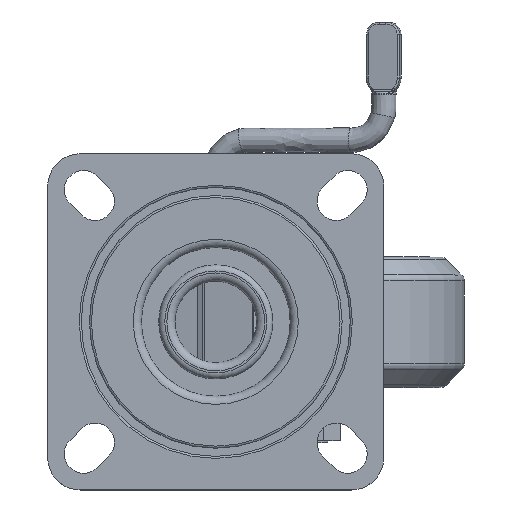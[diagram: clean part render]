
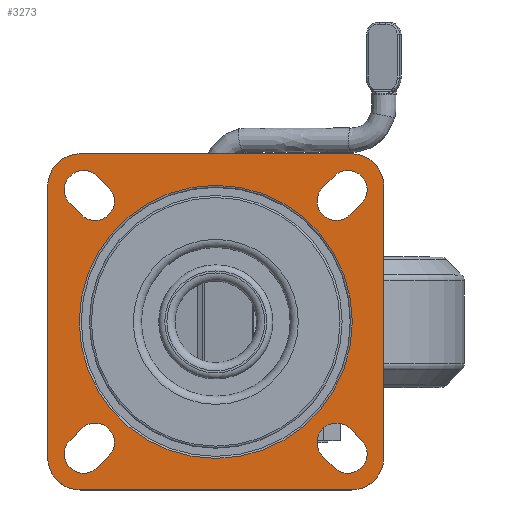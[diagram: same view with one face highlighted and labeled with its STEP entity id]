
A CAD part, top view. The second image highlights one B-rep face of the part: STEP entity #3273.
In plain terms, the highlighted planar face has unit normal (0, 0, 1).
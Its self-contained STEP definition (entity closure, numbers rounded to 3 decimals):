
#1211=PLANE('',#10369);
#1567=CIRCLE('',#10356,4.75);
#1568=CIRCLE('',#10357,4.75);
#1569=CIRCLE('',#10358,4.75);
#1570=CIRCLE('',#10359,4.75);
#1571=CIRCLE('',#10360,33.5);
#1572=CIRCLE('',#10361,8.);
#1573=CIRCLE('',#10362,8.);
#1574=CIRCLE('',#10363,8.);
#1575=CIRCLE('',#10364,8.);
#1576=CIRCLE('',#10365,4.75);
#1577=CIRCLE('',#10366,4.75);
#1578=CIRCLE('',#10367,4.75);
#1579=CIRCLE('',#10368,4.75);
#1949=LINE('',#14139,#2616);
#1950=LINE('',#14143,#2617);
#1951=LINE('',#14144,#2618);
#1952=LINE('',#14149,#2619);
#1953=LINE('',#14154,#2620);
#1954=LINE('',#14159,#2621);
#1955=LINE('',#14163,#2622);
#1956=LINE('',#14167,#2623);
#1957=LINE('',#14173,#2624);
#1958=LINE('',#14177,#2625);
#1959=LINE('',#14178,#2626);
#1960=LINE('',#14183,#2627);
#2616=VECTOR('',#11353,1.);
#2617=VECTOR('',#11356,1.);
#2618=VECTOR('',#11357,1.);
#2619=VECTOR('',#11360,1.);
#2620=VECTOR('',#11365,1.);
#2621=VECTOR('',#11368,1.);
#2622=VECTOR('',#11371,1.);
#2623=VECTOR('',#11374,1.);
#2624=VECTOR('',#11379,1.);
#2625=VECTOR('',#11382,1.);
#2626=VECTOR('',#11383,1.);
#2627=VECTOR('',#11386,1.);
#3273=ADVANCED_FACE('',(#3941,#3942,#3943,#3944,#3945,#3946),#1211,.F.);
#3941=FACE_BOUND('',#4174,.T.);
#3942=FACE_BOUND('',#4175,.T.);
#3943=FACE_BOUND('',#4176,.T.);
#3944=FACE_BOUND('',#4177,.T.);
#3945=FACE_BOUND('',#4178,.T.);
#3946=FACE_BOUND('',#4179,.T.);
#4174=EDGE_LOOP('',(#4940,#4941,#4942,#4943));
#4175=EDGE_LOOP('',(#4944,#4945,#4946,#4947));
#4176=EDGE_LOOP('',(#4948));
#4177=EDGE_LOOP('',(#4949,#4950,#4951,#4952,#4953,#4954,#4955,#4956));
#4178=EDGE_LOOP('',(#4957,#4958,#4959,#4960));
#4179=EDGE_LOOP('',(#4961,#4962,#4963,#4964));
#4940=ORIENTED_EDGE('',*,*,#8876,.T.);
#4941=ORIENTED_EDGE('',*,*,#8877,.T.);
#4942=ORIENTED_EDGE('',*,*,#8878,.T.);
#4943=ORIENTED_EDGE('',*,*,#8879,.T.);
#4944=ORIENTED_EDGE('',*,*,#8880,.F.);
#4945=ORIENTED_EDGE('',*,*,#8881,.F.);
#4946=ORIENTED_EDGE('',*,*,#8882,.F.);
#4947=ORIENTED_EDGE('',*,*,#8883,.F.);
#4948=ORIENTED_EDGE('',*,*,#8884,.F.);
#4949=ORIENTED_EDGE('',*,*,#8885,.T.);
#4950=ORIENTED_EDGE('',*,*,#8886,.T.);
#4951=ORIENTED_EDGE('',*,*,#8887,.T.);
#4952=ORIENTED_EDGE('',*,*,#8888,.T.);
#4953=ORIENTED_EDGE('',*,*,#8889,.T.);
#4954=ORIENTED_EDGE('',*,*,#8890,.T.);
#4955=ORIENTED_EDGE('',*,*,#8891,.F.);
#4956=ORIENTED_EDGE('',*,*,#8892,.T.);
#4957=ORIENTED_EDGE('',*,*,#8893,.T.);
#4958=ORIENTED_EDGE('',*,*,#8894,.T.);
#4959=ORIENTED_EDGE('',*,*,#8895,.T.);
#4960=ORIENTED_EDGE('',*,*,#8896,.T.);
#4961=ORIENTED_EDGE('',*,*,#8897,.F.);
#4962=ORIENTED_EDGE('',*,*,#8898,.F.);
#4963=ORIENTED_EDGE('',*,*,#8899,.F.);
#4964=ORIENTED_EDGE('',*,*,#8900,.F.);
#7894=VERTEX_POINT('',#14137);
#7895=VERTEX_POINT('',#14138);
#7896=VERTEX_POINT('',#14140);
#7897=VERTEX_POINT('',#14142);
#7898=VERTEX_POINT('',#14145);
#7899=VERTEX_POINT('',#14146);
#7900=VERTEX_POINT('',#14148);
#7901=VERTEX_POINT('',#14150);
#7902=VERTEX_POINT('',#14153);
#7903=VERTEX_POINT('',#14155);
#7904=VERTEX_POINT('',#14156);
#7905=VERTEX_POINT('',#14158);
#7906=VERTEX_POINT('',#14160);
#7907=VERTEX_POINT('',#14162);
#7908=VERTEX_POINT('',#14164);
#7909=VERTEX_POINT('',#14166);
#7910=VERTEX_POINT('',#14168);
#7911=VERTEX_POINT('',#14171);
#7912=VERTEX_POINT('',#14172);
#7913=VERTEX_POINT('',#14174);
#7914=VERTEX_POINT('',#14176);
#7915=VERTEX_POINT('',#14179);
#7916=VERTEX_POINT('',#14180);
#7917=VERTEX_POINT('',#14182);
#7918=VERTEX_POINT('',#14184);
#8876=EDGE_CURVE('',#7894,#7895,#1567,.T.);
#8877=EDGE_CURVE('',#7895,#7896,#1949,.T.);
#8878=EDGE_CURVE('',#7896,#7897,#1568,.T.);
#8879=EDGE_CURVE('',#7897,#7894,#1950,.T.);
#8880=EDGE_CURVE('',#7898,#7899,#1951,.T.);
#8881=EDGE_CURVE('',#7900,#7898,#1569,.T.);
#8882=EDGE_CURVE('',#7901,#7900,#1952,.T.);
#8883=EDGE_CURVE('',#7899,#7901,#1570,.T.);
#8884=EDGE_CURVE('',#7902,#7902,#1571,.T.);
#8885=EDGE_CURVE('',#7903,#7904,#1953,.T.);
#8886=EDGE_CURVE('',#7904,#7905,#1572,.T.);
#8887=EDGE_CURVE('',#7905,#7906,#1954,.T.);
#8888=EDGE_CURVE('',#7906,#7907,#1573,.T.);
#8889=EDGE_CURVE('',#7907,#7908,#1955,.T.);
#8890=EDGE_CURVE('',#7908,#7909,#1574,.T.);
#8891=EDGE_CURVE('',#7910,#7909,#1956,.T.);
#8892=EDGE_CURVE('',#7910,#7903,#1575,.T.);
#8893=EDGE_CURVE('',#7911,#7912,#1576,.T.);
#8894=EDGE_CURVE('',#7912,#7913,#1957,.T.);
#8895=EDGE_CURVE('',#7913,#7914,#1577,.T.);
#8896=EDGE_CURVE('',#7914,#7911,#1958,.T.);
#8897=EDGE_CURVE('',#7915,#7916,#1959,.T.);
#8898=EDGE_CURVE('',#7917,#7915,#1578,.T.);
#8899=EDGE_CURVE('',#7918,#7917,#1960,.T.);
#8900=EDGE_CURVE('',#7916,#7918,#1579,.T.);
#10356=AXIS2_PLACEMENT_3D('',#14136,#11351,#11352);
#10357=AXIS2_PLACEMENT_3D('',#14141,#11354,#11355);
#10358=AXIS2_PLACEMENT_3D('',#14147,#11358,#11359);
#10359=AXIS2_PLACEMENT_3D('',#14151,#11361,#11362);
#10360=AXIS2_PLACEMENT_3D('',#14152,#11363,#11364);
#10361=AXIS2_PLACEMENT_3D('',#14157,#11366,#11367);
#10362=AXIS2_PLACEMENT_3D('',#14161,#11369,#11370);
#10363=AXIS2_PLACEMENT_3D('',#14165,#11372,#11373);
#10364=AXIS2_PLACEMENT_3D('',#14169,#11375,#11376);
#10365=AXIS2_PLACEMENT_3D('',#14170,#11377,#11378);
#10366=AXIS2_PLACEMENT_3D('',#14175,#11380,#11381);
#10367=AXIS2_PLACEMENT_3D('',#14181,#11384,#11385);
#10368=AXIS2_PLACEMENT_3D('',#14185,#11387,#11388);
#10369=AXIS2_PLACEMENT_3D('',#14186,#11389,#11390);
#11351=DIRECTION('',(0.,0.,-1.));
#11352=DIRECTION('',(-1.,0.,0.));
#11353=DIRECTION('',(-0.707,0.707,0.));
#11354=DIRECTION('',(0.,0.,-1.));
#11355=DIRECTION('',(-1.,0.,0.));
#11356=DIRECTION('',(0.707,-0.707,0.));
#11357=DIRECTION('',(-0.707,-0.707,0.));
#11358=DIRECTION('',(0.,0.,1.));
#11359=DIRECTION('',(-1.,0.,0.));
#11360=DIRECTION('',(0.707,0.707,0.));
#11361=DIRECTION('',(0.,0.,1.));
#11362=DIRECTION('',(-1.,0.,0.));
#11363=DIRECTION('',(0.,0.,1.));
#11364=DIRECTION('',(-1.,0.,0.));
#11365=DIRECTION('',(0.,1.,0.));
#11366=DIRECTION('',(0.,0.,1.));
#11367=DIRECTION('',(1.,0.,0.));
#11368=DIRECTION('',(-1.,0.,0.));
#11369=DIRECTION('',(0.,0.,1.));
#11370=DIRECTION('',(1.,0.,0.));
#11371=DIRECTION('',(0.,-1.,0.));
#11372=DIRECTION('',(0.,0.,1.));
#11373=DIRECTION('',(1.,0.,0.));
#11374=DIRECTION('',(-1.,0.,0.));
#11375=DIRECTION('',(0.,0.,1.));
#11376=DIRECTION('',(1.,0.,0.));
#11377=DIRECTION('',(0.,0.,-1.));
#11378=DIRECTION('',(1.,0.,0.));
#11379=DIRECTION('',(0.707,0.707,0.));
#11380=DIRECTION('',(0.,0.,-1.));
#11381=DIRECTION('',(1.,0.,0.));
#11382=DIRECTION('',(-0.707,-0.707,0.));
#11383=DIRECTION('',(0.707,-0.707,0.));
#11384=DIRECTION('',(0.,0.,1.));
#11385=DIRECTION('',(1.,0.,0.));
#11386=DIRECTION('',(-0.707,0.707,0.));
#11387=DIRECTION('',(0.,0.,1.));
#11388=DIRECTION('',(1.,0.,0.));
#11389=DIRECTION('',(0.,0.,-1.));
#11390=DIRECTION('',(-1.,0.,0.));
#14136=CARTESIAN_POINT('',(32.4,-32.4,0.));
#14137=CARTESIAN_POINT('',(35.759,-29.041,0.));
#14138=CARTESIAN_POINT('',(29.041,-35.759,0.));
#14139=CARTESIAN_POINT('',(29.041,-35.759,0.));
#14140=CARTESIAN_POINT('',(26.241,-32.959,0.));
#14141=CARTESIAN_POINT('',(29.6,-29.6,0.));
#14142=CARTESIAN_POINT('',(32.959,-26.241,0.));
#14143=CARTESIAN_POINT('',(32.959,-26.241,0.));
#14144=CARTESIAN_POINT('',(29.041,35.759,0.));
#14145=CARTESIAN_POINT('',(29.041,35.759,0.));
#14146=CARTESIAN_POINT('',(26.241,32.959,0.));
#14147=CARTESIAN_POINT('',(32.4,32.4,0.));
#14148=CARTESIAN_POINT('',(35.759,29.041,0.));
#14149=CARTESIAN_POINT('',(32.959,26.241,0.));
#14150=CARTESIAN_POINT('',(32.959,26.241,0.));
#14151=CARTESIAN_POINT('',(29.6,29.6,0.));
#14152=CARTESIAN_POINT('',(0.,0.,0.));
#14153=CARTESIAN_POINT('',(-33.5,0.,0.));
#14154=CARTESIAN_POINT('',(41.25,0.,0.));
#14155=CARTESIAN_POINT('',(41.25,-33.25,0.));
#14156=CARTESIAN_POINT('',(41.25,33.25,0.));
#14157=CARTESIAN_POINT('',(33.25,33.25,0.));
#14158=CARTESIAN_POINT('',(33.25,41.25,0.));
#14159=CARTESIAN_POINT('',(0.,41.25,0.));
#14160=CARTESIAN_POINT('',(-33.25,41.25,0.));
#14161=CARTESIAN_POINT('',(-33.25,33.25,0.));
#14162=CARTESIAN_POINT('',(-41.25,33.25,0.));
#14163=CARTESIAN_POINT('',(-41.25,0.,0.));
#14164=CARTESIAN_POINT('',(-41.25,-33.25,0.));
#14165=CARTESIAN_POINT('',(-33.25,-33.25,0.));
#14166=CARTESIAN_POINT('',(-33.25,-41.25,0.));
#14167=CARTESIAN_POINT('',(0.,-41.25,0.));
#14168=CARTESIAN_POINT('',(33.25,-41.25,0.));
#14169=CARTESIAN_POINT('',(33.25,-33.25,0.));
#14170=CARTESIAN_POINT('',(-32.4,-32.4,0.));
#14171=CARTESIAN_POINT('',(-29.041,-35.759,0.));
#14172=CARTESIAN_POINT('',(-35.759,-29.041,0.));
#14173=CARTESIAN_POINT('',(-35.759,-29.041,0.));
#14174=CARTESIAN_POINT('',(-32.959,-26.241,0.));
#14175=CARTESIAN_POINT('',(-29.6,-29.6,0.));
#14176=CARTESIAN_POINT('',(-26.241,-32.959,0.));
#14177=CARTESIAN_POINT('',(-26.241,-32.959,0.));
#14178=CARTESIAN_POINT('',(-35.759,29.041,0.));
#14179=CARTESIAN_POINT('',(-35.759,29.041,0.));
#14180=CARTESIAN_POINT('',(-32.959,26.241,0.));
#14181=CARTESIAN_POINT('',(-32.4,32.4,0.));
#14182=CARTESIAN_POINT('',(-29.041,35.759,0.));
#14183=CARTESIAN_POINT('',(-26.241,32.959,0.));
#14184=CARTESIAN_POINT('',(-26.241,32.959,0.));
#14185=CARTESIAN_POINT('',(-29.6,29.6,0.));
#14186=CARTESIAN_POINT('',(0.,41.25,0.));
